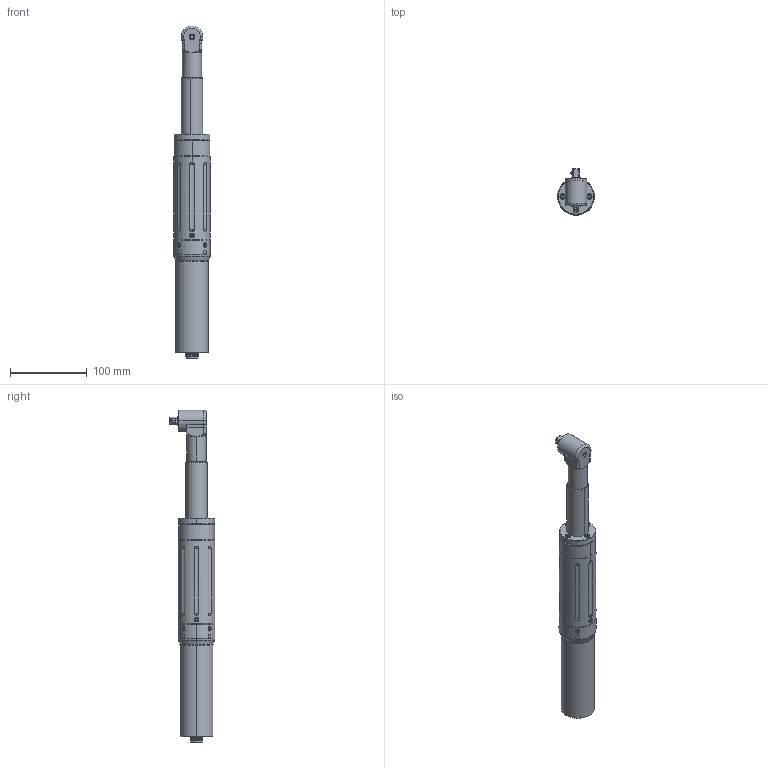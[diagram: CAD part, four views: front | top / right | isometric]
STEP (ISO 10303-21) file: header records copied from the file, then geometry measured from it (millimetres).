
FILE_DESCRIPTION (( 'STEP AP214' ), '1' );
FILE_NAME ('135120-KDS-PL20CA + ANG HD12.STEP', '2025-11-05T15:57:03', ( '' ), ( '' ), 'SwSTEP 2.0', 'SolidWorks 2024', '' );
FILE_SCHEMA (( 'AUTOMOTIVE_DESIGN' ));
Length unit declared in the file: millimetre
Products named in the file (1): 135120-KDS-PL20CA + ANG HD12
Bounding box: 48 x 59.8 x 433.5 mm (x, y, z)
Surface area: 65405.5 mm2 (no closed solid volume)
Topology: 0 solids, 29 shells, 417 faces, 1256 edges, 856 vertices
Faces by surface type: cylinder 188, plane 82, cone 74, torus 37, sphere 26, bspline 10
Entity records: 17116 total; most frequent: CARTESIAN_POINT 5727, DIRECTION 2594, ORIENTED_EDGE 2096, EDGE_CURVE 1256, AXIS2_PLACEMENT_3D 1075, VERTEX_POINT 856, CIRCLE 667, EDGE_LOOP 492
